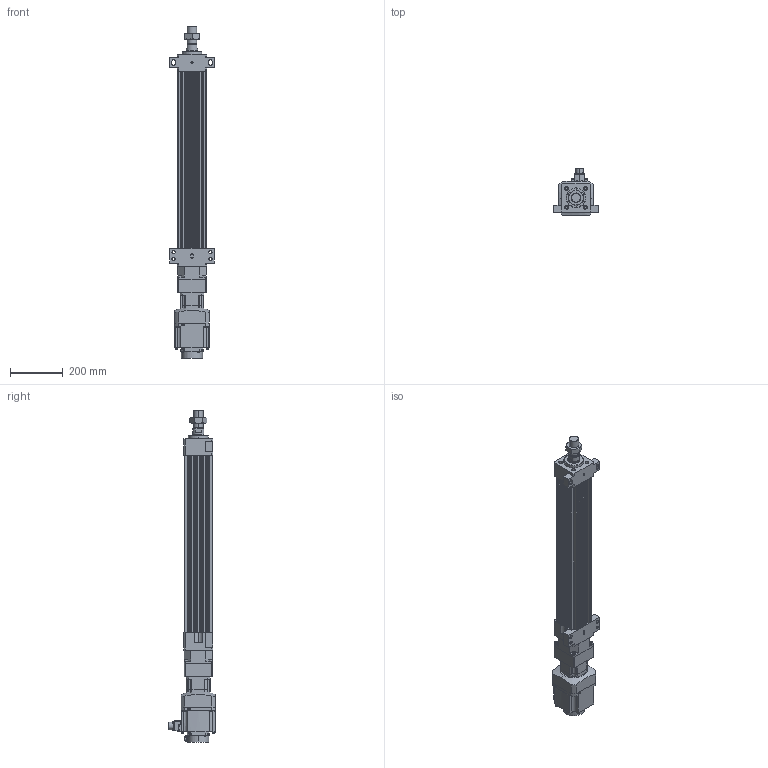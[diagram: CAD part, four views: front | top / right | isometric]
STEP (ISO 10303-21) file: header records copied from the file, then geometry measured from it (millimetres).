
FILE_DESCRIPTION (( 'STEP AP203' ), '1' );
FILE_NAME ('HES110NS(HS)-S500-W010G00-M-FFB.STEP', '2023-01-27T05:53:26', ( 'tms' ), ( '' ), 'SwSTEP 2.0', 'SolidWorks 2013', '' );
FILE_SCHEMA (( 'CONFIG_CONTROL_DESIGN' ));
Length unit declared in the file: millimetre
Products named in the file (8): HG-SR102; AB090-003[HG-SR102B]; HES110-S500-G090-FFB; AB0901; M36X1.5P; P0401301004; HES110NS(HS)-S500-W010G00-M-FFB; HES110 ROD M ST500
Assembly tree (7 placements, depth 3):
  HES110NS(HS)-S500-W010G00-M-FFB
    HES110-S500-G090-FFB
    HES110 ROD M ST500
    M36X1.5P
    AB090-003[HG-SR102B]
      AB0901
      P0401301004
    HG-SR102
Bounding box: 170 x 177.49 x 1258.5 mm (x, y, z)
Volume: 8179079.4 mm3; surface area: 1125381.1 mm2
Topology: 4 solids, 15 shells, 1189 faces, 3015 edges, 1964 vertices
Faces by surface type: plane 570, cylinder 529, cone 78, bspline 8, torus 4
Entity records: 37852 total; most frequent: CARTESIAN_POINT 7358, DIRECTION 6498, ORIENTED_EDGE 5982, EDGE_CURVE 3001, AXIS2_PLACEMENT_3D 2375, VERTEX_POINT 1964, LINE 1748, VECTOR 1748
